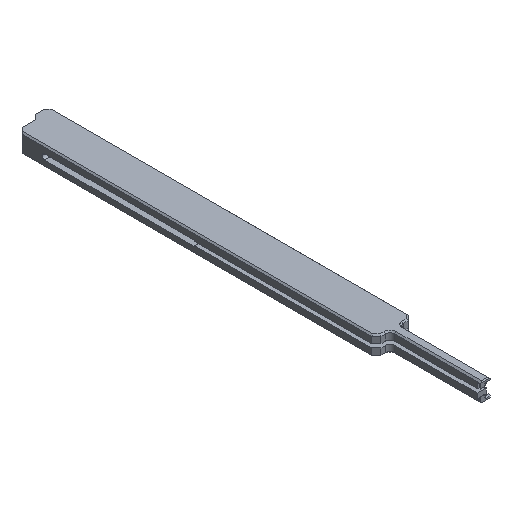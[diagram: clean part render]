
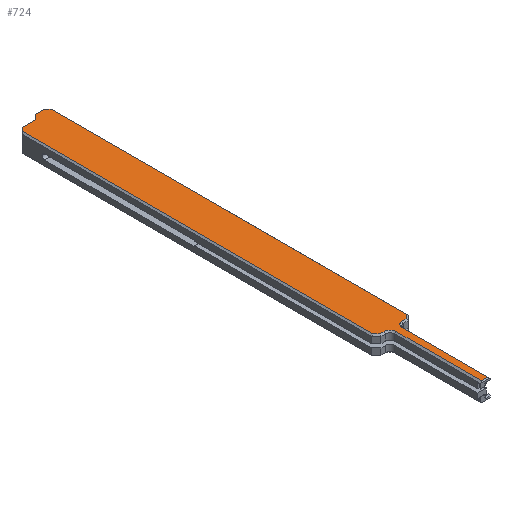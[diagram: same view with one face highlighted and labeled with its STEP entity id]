
A CAD part, isometric view. The second image highlights one B-rep face of the part: STEP entity #724.
In plain terms, the highlighted planar face has unit normal (0, 0, 1).
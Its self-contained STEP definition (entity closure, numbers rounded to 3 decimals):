
#26 = CARTESIAN_POINT ( 'NONE',  ( 15.477, 11.37, 18.732 ) ) ;
#31 = CARTESIAN_POINT ( 'NONE',  ( 18.965, 93.458, 18.732 ) ) ;
#53 = VECTOR ( 'NONE', #2019, 1000. ) ;
#57 = VERTEX_POINT ( 'NONE', #1846 ) ;
#59 = LINE ( 'NONE', #2085, #62 ) ;
#62 = VECTOR ( 'NONE', #404, 1000. ) ;
#114 = CARTESIAN_POINT ( 'NONE',  ( 26.016, 86.407, 18.732 ) ) ;
#128 = VECTOR ( 'NONE', #916, 1000. ) ;
#138 = AXIS2_PLACEMENT_3D ( 'NONE', #1579, #892, #313 ) ;
#142 = DIRECTION ( 'NONE',  ( -0.707, -0.707, 0. ) ) ;
#149 = VERTEX_POINT ( 'NONE', #460 ) ;
#178 = DIRECTION ( 'NONE',  ( -0.707, -0.707, 0. ) ) ;
#186 = CIRCLE ( 'NONE', #138, 1.3 ) ;
#200 = CARTESIAN_POINT ( 'NONE',  ( 11.565, 92.458, 18.732 ) ) ;
#208 = DIRECTION ( 'NONE',  ( 0., 1., 0. ) ) ;
#298 = LINE ( 'NONE', #1327, #53 ) ;
#301 = CIRCLE ( 'NONE', #575, 1.3 ) ;
#305 = VECTOR ( 'NONE', #536, 1000. ) ;
#308 = VERTEX_POINT ( 'NONE', #1474 ) ;
#313 = DIRECTION ( 'NONE',  ( -1., 0., 0. ) ) ;
#315 = EDGE_CURVE ( 'NONE', #149, #2346, #2179, .T. ) ;
#316 = CARTESIAN_POINT ( 'NONE',  ( 11.565, 15.282, 18.732 ) ) ;
#404 = DIRECTION ( 'NONE',  ( -1., 0., 0. ) ) ;
#424 = ORIENTED_EDGE ( 'NONE', *, *, #1130, .T. ) ;
#429 = DIRECTION ( 'NONE',  ( -0.707, 0.707, 0. ) ) ;
#447 = EDGE_LOOP ( 'NONE', ( #1094, #2461, #874, #1127, #1139, #1889, #1241, #2155, #618, #1397, #1270, #1648, #1203, #2368, #424, #2204 ) ) ;
#460 = CARTESIAN_POINT ( 'NONE',  ( 14.565, -5.642, 18.732 ) ) ;
#484 = EDGE_CURVE ( 'NONE', #1186, #308, #624, .T. ) ;
#527 = VERTEX_POINT ( 'NONE', #868 ) ;
#536 = DIRECTION ( 'NONE',  ( -0.707, 0.707, 0. ) ) ;
#543 = CARTESIAN_POINT ( 'NONE',  ( 13.265, 13.158, 18.732 ) ) ;
#575 = AXIS2_PLACEMENT_3D ( 'NONE', #543, #2045, #2459 ) ;
#595 = VECTOR ( 'NONE', #178, 1000. ) ;
#611 = VECTOR ( 'NONE', #2214, 1000. ) ;
#618 = ORIENTED_EDGE ( 'NONE', *, *, #1093, .F. ) ;
#624 = LINE ( 'NONE', #2243, #727 ) ;
#626 = FACE_OUTER_BOUND ( 'NONE', #447, .T. ) ;
#644 = VERTEX_POINT ( 'NONE', #1834 ) ;
#671 = CARTESIAN_POINT ( 'NONE',  ( 11.565, 87.158, 18.732 ) ) ;
#694 = LINE ( 'NONE', #2329, #2400 ) ;
#724 = ADVANCED_FACE ( 'NONE', ( #626 ), #1545, .T. ) ;
#727 = VECTOR ( 'NONE', #2357, 1000. ) ;
#760 = DIRECTION ( 'NONE',  ( 0., -1., 0. ) ) ;
#792 = VERTEX_POINT ( 'NONE', #1562 ) ;
#822 = LINE ( 'NONE', #671, #2419 ) ;
#824 = EDGE_CURVE ( 'NONE', #644, #2278, #186, .T. ) ;
#832 = VERTEX_POINT ( 'NONE', #31 ) ;
#868 = CARTESIAN_POINT ( 'NONE',  ( 12.265, 93.158, 18.732 ) ) ;
#871 = EDGE_CURVE ( 'NONE', #1674, #792, #1072, .T. ) ;
#874 = ORIENTED_EDGE ( 'NONE', *, *, #484, .F. ) ;
#892 = DIRECTION ( 'NONE',  ( 0., 0., 1. ) ) ;
#896 = VERTEX_POINT ( 'NONE', #200 ) ;
#907 = VECTOR ( 'NONE', #142, 1000. ) ;
#908 = CARTESIAN_POINT ( 'NONE',  ( 15.265, 93.158, 18.732 ) ) ;
#916 = DIRECTION ( 'NONE',  ( -1., 0., 0. ) ) ;
#934 = CARTESIAN_POINT ( 'NONE',  ( 13.265, 14.458, 18.732 ) ) ;
#939 = DIRECTION ( 'NONE',  ( -0.707, -0.707, 0. ) ) ;
#1045 = DIRECTION ( 'NONE',  ( 0., 0., 1. ) ) ;
#1072 = LINE ( 'NONE', #1116, #2093 ) ;
#1093 = EDGE_CURVE ( 'NONE', #792, #644, #298, .T. ) ;
#1094 = ORIENTED_EDGE ( 'NONE', *, *, #1538, .T. ) ;
#1116 = CARTESIAN_POINT ( 'NONE',  ( 17.053, 13.37, 18.732 ) ) ;
#1124 = LINE ( 'NONE', #114, #305 ) ;
#1127 = ORIENTED_EDGE ( 'NONE', *, *, #1936, .F. ) ;
#1130 = EDGE_CURVE ( 'NONE', #57, #527, #2515, .T. ) ;
#1139 = ORIENTED_EDGE ( 'NONE', *, *, #315, .F. ) ;
#1144 = CARTESIAN_POINT ( 'NONE',  ( 15.965, 13.158, 18.732 ) ) ;
#1162 = CARTESIAN_POINT ( 'NONE',  ( 14.565, 13.158, 18.732 ) ) ;
#1186 = VERTEX_POINT ( 'NONE', #934 ) ;
#1203 = ORIENTED_EDGE ( 'NONE', *, *, #1343, .T. ) ;
#1241 = ORIENTED_EDGE ( 'NONE', *, *, #1774, .F. ) ;
#1264 = EDGE_CURVE ( 'NONE', #2284, #57, #1472, .T. ) ;
#1270 = ORIENTED_EDGE ( 'NONE', *, *, #1756, .T. ) ;
#1327 = CARTESIAN_POINT ( 'NONE',  ( 17.265, 14.458, 18.732 ) ) ;
#1343 = EDGE_CURVE ( 'NONE', #2362, #2284, #59, .T. ) ;
#1397 = ORIENTED_EDGE ( 'NONE', *, *, #871, .F. ) ;
#1409 = CARTESIAN_POINT ( 'NONE',  ( 15.965, -5.642, 18.732 ) ) ;
#1472 = LINE ( 'NONE', #2412, #907 ) ;
#1474 = CARTESIAN_POINT ( 'NONE',  ( 12.389, 14.458, 18.732 ) ) ;
#1479 = DIRECTION ( 'NONE',  ( -1., 0., 0. ) ) ;
#1486 = CARTESIAN_POINT ( 'NONE',  ( 16.265, 94.158, 18.732 ) ) ;
#1538 = EDGE_CURVE ( 'NONE', #896, #1567, #822, .T. ) ;
#1545 = PLANE ( 'NONE',  #2003 ) ;
#1562 = CARTESIAN_POINT ( 'NONE',  ( 18.14, 14.458, 18.732 ) ) ;
#1567 = VERTEX_POINT ( 'NONE', #316 ) ;
#1579 = CARTESIAN_POINT ( 'NONE',  ( 17.265, 13.158, 18.732 ) ) ;
#1648 = ORIENTED_EDGE ( 'NONE', *, *, #1681, .T. ) ;
#1674 = VERTEX_POINT ( 'NONE', #2394 ) ;
#1681 = EDGE_CURVE ( 'NONE', #832, #2362, #1124, .T. ) ;
#1756 = EDGE_CURVE ( 'NONE', #1674, #832, #2148, .T. ) ;
#1774 = EDGE_CURVE ( 'NONE', #2278, #2428, #2365, .T. ) ;
#1788 = CARTESIAN_POINT ( 'NONE',  ( 18.265, 94.158, 18.732 ) ) ;
#1834 = CARTESIAN_POINT ( 'NONE',  ( 17.265, 14.458, 18.732 ) ) ;
#1846 = CARTESIAN_POINT ( 'NONE',  ( 15.265, 93.158, 18.732 ) ) ;
#1867 = CARTESIAN_POINT ( 'NONE',  ( 14.565, 13.158, 18.732 ) ) ;
#1870 = LINE ( 'NONE', #26, #2100 ) ;
#1889 = ORIENTED_EDGE ( 'NONE', *, *, #2178, .F. ) ;
#1936 = EDGE_CURVE ( 'NONE', #2346, #1186, #301, .T. ) ;
#1984 = CARTESIAN_POINT ( 'NONE',  ( 16.516, 97.41, 18.732 ) ) ;
#2003 = AXIS2_PLACEMENT_3D ( 'NONE', #2018, #1045, #2427 ) ;
#2018 = CARTESIAN_POINT ( 'NONE',  ( 26.767, 87.158, 18.732 ) ) ;
#2019 = DIRECTION ( 'NONE',  ( -1., 0., 0. ) ) ;
#2045 = DIRECTION ( 'NONE',  ( 0., 0., 1. ) ) ;
#2085 = CARTESIAN_POINT ( 'NONE',  ( 26.767, 94.158, 18.732 ) ) ;
#2093 = VECTOR ( 'NONE', #939, 1000. ) ;
#2100 = VECTOR ( 'NONE', #429, 1000. ) ;
#2145 = VECTOR ( 'NONE', #208, 1000. ) ;
#2148 = LINE ( 'NONE', #2331, #611 ) ;
#2155 = ORIENTED_EDGE ( 'NONE', *, *, #824, .F. ) ;
#2178 = EDGE_CURVE ( 'NONE', #2428, #149, #694, .T. ) ;
#2179 = LINE ( 'NONE', #1867, #2145 ) ;
#2204 = ORIENTED_EDGE ( 'NONE', *, *, #2477, .T. ) ;
#2214 = DIRECTION ( 'NONE',  ( 0., 1., 0. ) ) ;
#2243 = CARTESIAN_POINT ( 'NONE',  ( 12.265, 14.458, 18.732 ) ) ;
#2278 = VERTEX_POINT ( 'NONE', #1144 ) ;
#2284 = VERTEX_POINT ( 'NONE', #1486 ) ;
#2297 = LINE ( 'NONE', #1984, #595 ) ;
#2308 = VECTOR ( 'NONE', #760, 1000. ) ;
#2329 = CARTESIAN_POINT ( 'NONE',  ( 14.265, -5.642, 18.732 ) ) ;
#2331 = CARTESIAN_POINT ( 'NONE',  ( 18.965, 93.158, 18.732 ) ) ;
#2346 = VERTEX_POINT ( 'NONE', #1162 ) ;
#2357 = DIRECTION ( 'NONE',  ( -1., 0., 0. ) ) ;
#2362 = VERTEX_POINT ( 'NONE', #1788 ) ;
#2365 = LINE ( 'NONE', #2367, #2308 ) ;
#2367 = CARTESIAN_POINT ( 'NONE',  ( 15.965, -5.642, 18.732 ) ) ;
#2368 = ORIENTED_EDGE ( 'NONE', *, *, #1264, .T. ) ;
#2394 = CARTESIAN_POINT ( 'NONE',  ( 18.965, 15.282, 18.732 ) ) ;
#2400 = VECTOR ( 'NONE', #1479, 1000. ) ;
#2412 = CARTESIAN_POINT ( 'NONE',  ( 18.016, 95.91, 18.732 ) ) ;
#2419 = VECTOR ( 'NONE', #2479, 1000. ) ;
#2427 = DIRECTION ( 'NONE',  ( 1., 0., 0. ) ) ;
#2428 = VERTEX_POINT ( 'NONE', #1409 ) ;
#2459 = DIRECTION ( 'NONE',  ( -1., 0., 0. ) ) ;
#2461 = ORIENTED_EDGE ( 'NONE', *, *, #2525, .F. ) ;
#2477 = EDGE_CURVE ( 'NONE', #527, #896, #2297, .T. ) ;
#2479 = DIRECTION ( 'NONE',  ( 0., -1., 0. ) ) ;
#2515 = LINE ( 'NONE', #908, #128 ) ;
#2525 = EDGE_CURVE ( 'NONE', #308, #1567, #1870, .T. ) ;
